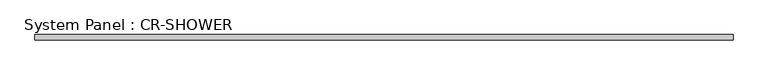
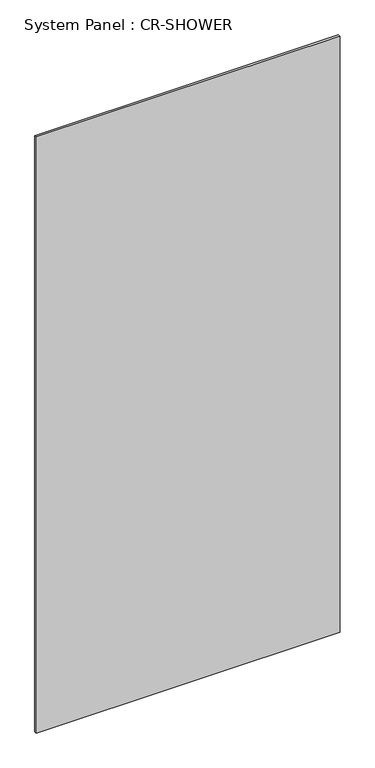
"""IFC4 building model written with IfcOpenShell, lengths in millimetres: plate geometry, System Panel : CR-SHOWER."""

from ifc_helpers import new_model, si_unit, origin, origin_with_axes, place, context, project, spatial, polyline, outline, extrude, source, transform, mapped, element, save


def system_panel_cr_shower_a34dfe18(model_context):
    return source(origin(), model_context, "Body", "SweptSolid", [
        extrude(outline(polyline([(807.5, -0.05), (-807.5, -0.05), (-807.5, 12.45), (807.5, 12.45), (807.5, -0.05)])), origin_with_axes(), (0.0, 0.0, 1.0), 3350.0),
    ])


if __name__ == "__main__":
    model = new_model("IFC4")
    model_context = context("Model", 3, world=origin())
    ifc_project = project(units=[si_unit("LENGTHUNIT", "METRE", prefix="MILLI")], contexts=[model_context])
    site = spatial("IfcSite", under=ifc_project)
    building = spatial("IfcBuilding", under=site)
    placement = place(None, origin())
    system_panel_cr_shower_shape = system_panel_cr_shower_a34dfe18(model_context)
    element("IfcPlate", 1, ObjectType="System Panel : CR-SHOWER", at=placement, inside=building, context=model_context, shape_type="MappedRepresentation", body=[
        mapped(system_panel_cr_shower_shape, transform((0.0, 0.0, 0.0), x_axis=(1.0, 0.0, 0.0), y_axis=(0.0, 1.0, 0.0), z_axis=(0.0, 0.0, 1.0))),
    ])
    save(model, "model.ifc")
